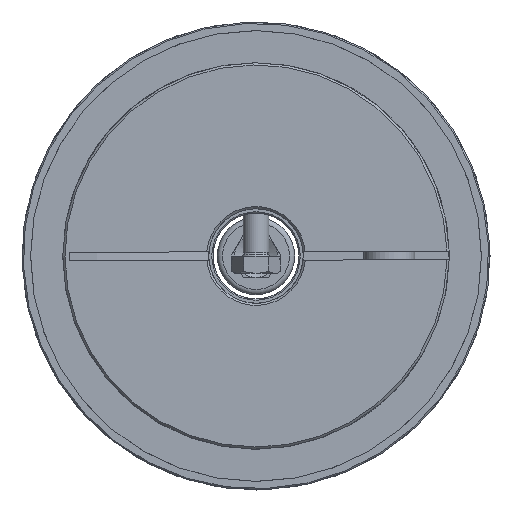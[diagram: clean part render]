
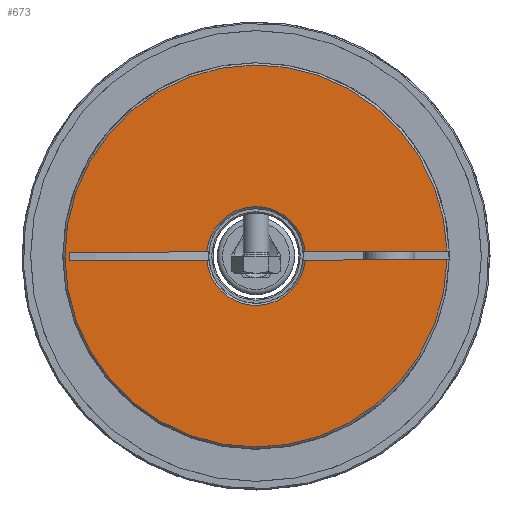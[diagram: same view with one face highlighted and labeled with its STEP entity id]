
A CAD part, left-side view. The second image highlights one B-rep face of the part: STEP entity #673.
In plain terms, the highlighted planar face has unit normal (-1, 0, 0).
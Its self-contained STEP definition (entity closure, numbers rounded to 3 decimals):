
#673 = ADVANCED_FACE( 'NONE', ( #1440 ), #1441, .F. );
#1440 = FACE_OUTER_BOUND( '', #2125, .T. );
#1441 = PLANE( '', #2126 );
#2125 = EDGE_LOOP( '', ( #3413, #3414, #3415, #3416, #3417, #3418, #3419, #3420 ) );
#2126 = AXIS2_PLACEMENT_3D( '', #3421, #3422, #3423 );
#3413 = ORIENTED_EDGE( '', *, *, #3902, .T. );
#3414 = ORIENTED_EDGE( '', *, *, #3903, .T. );
#3415 = ORIENTED_EDGE( '', *, *, #3904, .T. );
#3416 = ORIENTED_EDGE( '', *, *, #3873, .T. );
#3417 = ORIENTED_EDGE( '', *, *, #3898, .F. );
#3418 = ORIENTED_EDGE( '', *, *, #3905, .T. );
#3419 = ORIENTED_EDGE( '', *, *, #3906, .F. );
#3420 = ORIENTED_EDGE( '', *, *, #3907, .T. );
#3421 = CARTESIAN_POINT( '', ( 0., 11., 0. ) );
#3422 = DIRECTION( '', ( 1., 0., 0. ) );
#3423 = DIRECTION( '', ( 0., 1., 0. ) );
#3873 = EDGE_CURVE( 'NONE', #4471, #4472, #4473, .F. );
#3898 = EDGE_CURVE( 'NONE', #4517, #4472, #4519, .F. );
#3902 = EDGE_CURVE( 'NONE', #4525, #4526, #4527, .T. );
#3903 = EDGE_CURVE( 'NONE', #4526, #4528, #4529, .T. );
#3904 = EDGE_CURVE( 'NONE', #4528, #4471, #4530, .T. );
#3905 = EDGE_CURVE( 'NONE', #4517, #4531, #4532, .T. );
#3906 = EDGE_CURVE( 'NONE', #4533, #4531, #4534, .F. );
#3907 = EDGE_CURVE( 'NONE', #4533, #4525, #4535, .T. );
#4471 = VERTEX_POINT( 'NONE', #5495 );
#4472 = VERTEX_POINT( 'NONE', #5496 );
#4473 = CIRCLE( '', #5497, 44.5 );
#4517 = VERTEX_POINT( 'NONE', #5656 );
#4519 = LINE( '', #5661, #5662 );
#4525 = VERTEX_POINT( 'NONE', #5670 );
#4526 = VERTEX_POINT( 'NONE', #5671 );
#4527 = LINE( '', #5672, #5673 );
#4528 = VERTEX_POINT( 'NONE', #5674 );
#4529 = CIRCLE( '', #5675, 11.5 );
#4530 = LINE( '', #5676, #5677 );
#4531 = VERTEX_POINT( 'NONE', #5678 );
#4532 = CIRCLE( '', #5679, 11.5 );
#4533 = VERTEX_POINT( 'NONE', #5680 );
#4534 = LINE( '', #5681, #5682 );
#4535 = LINE( '', #5683, #5684 );
#5495 = CARTESIAN_POINT( '', ( 0., -44.489, 1. ) );
#5496 = CARTESIAN_POINT( '', ( 0., -44.489, -1. ) );
#5497 = AXIS2_PLACEMENT_3D( '', #6426, #6427, #6428 );
#5656 = CARTESIAN_POINT( '', ( 0., -11.456, -1. ) );
#5661 = CARTESIAN_POINT( '', ( 0., -9., -1. ) );
#5662 = VECTOR( '', #6472, 1000. );
#5670 = CARTESIAN_POINT( '', ( 0., 43.508, 1. ) );
#5671 = CARTESIAN_POINT( '', ( 0., 11.456, 1. ) );
#5672 = CARTESIAN_POINT( '', ( 0., 11., 1. ) );
#5673 = VECTOR( '', #6478, 1000. );
#5674 = CARTESIAN_POINT( '', ( 0., -11.456, 1. ) );
#5675 = AXIS2_PLACEMENT_3D( '', #6479, #6480, #6481 );
#5676 = CARTESIAN_POINT( '', ( 0., 11., 1. ) );
#5677 = VECTOR( '', #6482, 1000. );
#5678 = CARTESIAN_POINT( '', ( 0., 11.456, -1. ) );
#5679 = AXIS2_PLACEMENT_3D( '', #6483, #6484, #6485 );
#5680 = CARTESIAN_POINT( '', ( 0., 43.508, -1. ) );
#5681 = CARTESIAN_POINT( '', ( 0., -9., -1. ) );
#5682 = VECTOR( '', #6486, 1000. );
#5683 = CARTESIAN_POINT( '', ( 0., 43.508, -1. ) );
#5684 = VECTOR( '', #6487, 1000. );
#6426 = CARTESIAN_POINT( '', ( 0., 0., 0. ) );
#6427 = DIRECTION( '', ( 1., 0., 0. ) );
#6428 = DIRECTION( '', ( 0., 0., -1. ) );
#6472 = DIRECTION( '', ( 0., 1., 0. ) );
#6478 = DIRECTION( '', ( 0., -1., 0. ) );
#6479 = CARTESIAN_POINT( '', ( 0., 0., 0. ) );
#6480 = DIRECTION( '', ( 1., 0., 0. ) );
#6481 = DIRECTION( '', ( 0., 0., -1. ) );
#6482 = DIRECTION( '', ( 0., -1., 0. ) );
#6483 = CARTESIAN_POINT( '', ( 0., 0., 0. ) );
#6484 = DIRECTION( '', ( 1., 0., 0. ) );
#6485 = DIRECTION( '', ( 0., 0., -1. ) );
#6486 = DIRECTION( '', ( 0., 1., 0. ) );
#6487 = DIRECTION( '', ( 0., 0., 1. ) );
